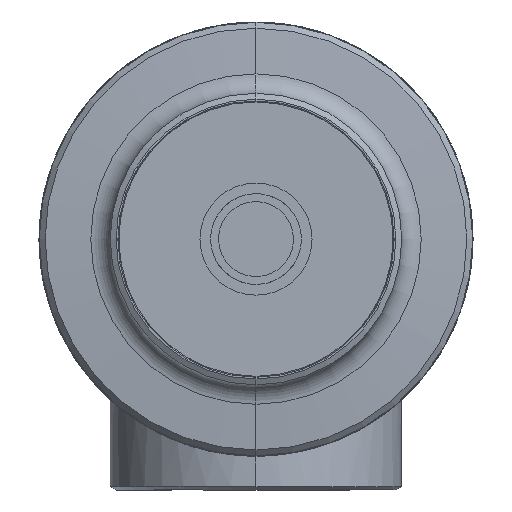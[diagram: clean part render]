
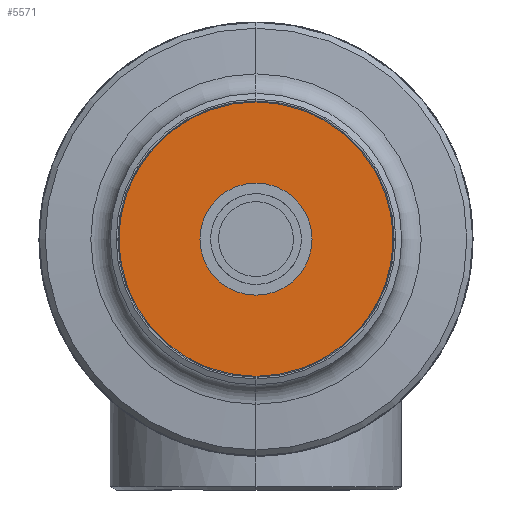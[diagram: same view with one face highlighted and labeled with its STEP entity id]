
A CAD part, front view. The second image highlights one B-rep face of the part: STEP entity #5571.
In plain terms, the highlighted planar face has unit normal (0, -1, 0).
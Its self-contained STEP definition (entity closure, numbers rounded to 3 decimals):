
#2418 = ORIENTED_EDGE ( 'NONE', *, *, #9941, .T. ) ;
#2541 = CIRCLE ( 'NONE', #2542, 52.5 ) ;
#2542 = AXIS2_PLACEMENT_3D ( 'NONE', #2547, #2548, #2549 ) ;
#2547 = CARTESIAN_POINT ( 'NONE',  ( 0., -48., 0. ) ) ;
#2548 = DIRECTION ( 'NONE',  ( 0., -1., 0. ) ) ;
#2549 = DIRECTION ( 'NONE',  ( 0., 0., -1. ) ) ;
#2941 = ORIENTED_EDGE ( 'NONE', *, *, #21285, .T. ) ;
#3495 = FACE_BOUND ( 'NONE', #5325, .T. ) ;
#3496 = FACE_OUTER_BOUND ( 'NONE', #3639, .T. ) ;
#3497 = PLANE ( 'NONE',  #3498 ) ;
#3498 = AXIS2_PLACEMENT_3D ( 'NONE', #3499, #3500, #3501 ) ;
#3499 = CARTESIAN_POINT ( 'NONE',  ( 0., -48., 0. ) ) ;
#3500 = DIRECTION ( 'NONE',  ( 0., -1., 0. ) ) ;
#3501 = DIRECTION ( 'NONE',  ( 0., 0., -1. ) ) ;
#3639 = EDGE_LOOP ( 'NONE', ( #2941, #2418 ) ) ;
#3878 = ORIENTED_EDGE ( 'NONE', *, *, #22670, .F. ) ;
#4424 = EDGE_CURVE ( 'NONE', #22445, #23571, #2541, .T. ) ;
#4799 = ORIENTED_EDGE ( 'NONE', *, *, #4424, .F. ) ;
#21285 = EDGE_CURVE ( 'NONE', #9488, #9711, #9237, .T. ) ;
#5325 = EDGE_LOOP ( 'NONE', ( #4799, #3878 ) ) ;
#5571 = ADVANCED_FACE ( 'NONE', ( #3495, #3496 ), #3497, .T. ) ;
#22445 = VERTEX_POINT ( 'NONE', #10243 ) ;
#22670 = EDGE_CURVE ( 'NONE', #23571, #22445, #10565, .T. ) ;
#23571 = VERTEX_POINT ( 'NONE', #14318 ) ;
#9237 = CIRCLE ( 'NONE', #9238, 148. ) ;
#9238 = AXIS2_PLACEMENT_3D ( 'NONE', #9239, #9240, #9241 ) ;
#9239 = CARTESIAN_POINT ( 'NONE',  ( 0., -48., 0. ) ) ;
#9240 = DIRECTION ( 'NONE',  ( 0., -1., 0. ) ) ;
#9241 = DIRECTION ( 'NONE',  ( 0., 0., -1. ) ) ;
#9488 = VERTEX_POINT ( 'NONE', #14705 ) ;
#9711 = VERTEX_POINT ( 'NONE', #14986 ) ;
#9941 = EDGE_CURVE ( 'NONE', #9711, #9488, #15092, .T. ) ;
#10243 = CARTESIAN_POINT ( 'NONE',  ( 0., -48., -52.5 ) ) ;
#10565 = CIRCLE ( 'NONE', #10566, 52.5 ) ;
#10566 = AXIS2_PLACEMENT_3D ( 'NONE', #10567, #10568, #10569 ) ;
#10567 = CARTESIAN_POINT ( 'NONE',  ( 0., -48., 0. ) ) ;
#10568 = DIRECTION ( 'NONE',  ( 0., -1., 0. ) ) ;
#10569 = DIRECTION ( 'NONE',  ( 0., 0., -1. ) ) ;
#14318 = CARTESIAN_POINT ( 'NONE',  ( 0., -48., 52.5 ) ) ;
#14705 = CARTESIAN_POINT ( 'NONE',  ( 0., -48., 148. ) ) ;
#14986 = CARTESIAN_POINT ( 'NONE',  ( 0., -48., -148. ) ) ;
#15092 = CIRCLE ( 'NONE', #15093, 148. ) ;
#15093 = AXIS2_PLACEMENT_3D ( 'NONE', #15094, #15114, #15115 ) ;
#15094 = CARTESIAN_POINT ( 'NONE',  ( 0., -48., 0. ) ) ;
#15114 = DIRECTION ( 'NONE',  ( 0., -1., 0. ) ) ;
#15115 = DIRECTION ( 'NONE',  ( 0., 0., -1. ) ) ;
